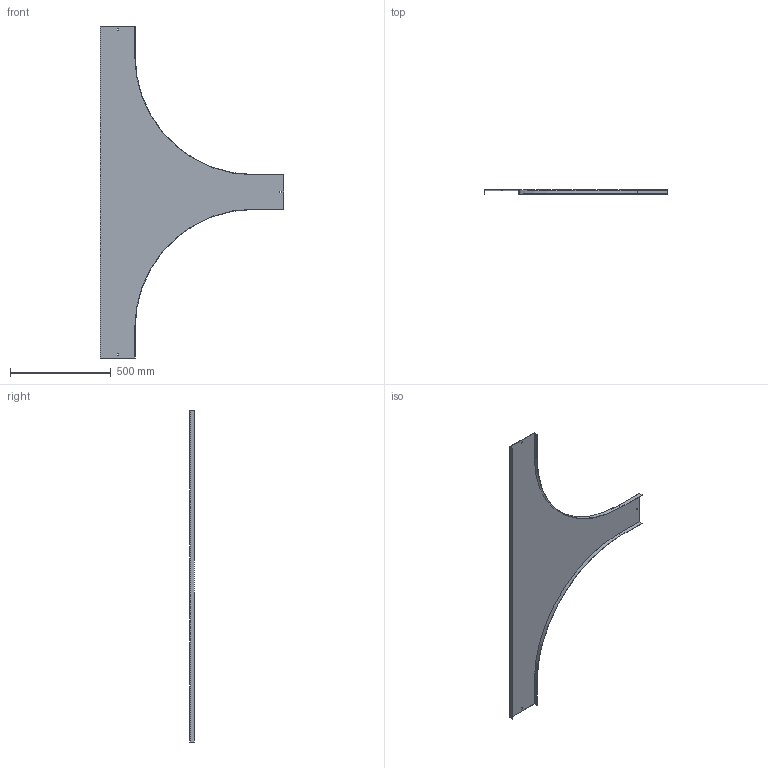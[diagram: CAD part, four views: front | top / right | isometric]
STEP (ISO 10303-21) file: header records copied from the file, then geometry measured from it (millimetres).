
FILE_DESCRIPTION (( 'STEP AP214' ), '1' );
FILE_NAME ('15N6P150.step', '2025-02-21T13:56:07', ( '' ), ( '' ), 'SwSTEP 2.0', 'SolidWorks 2023', '' );
FILE_SCHEMA (( 'AUTOMOTIVE_DESIGN' ));
Length unit declared in the file: millimetre
Products named in the file (1): 15N6P150
Bounding box: 911.5 x 20 x 1650 mm (x, y, z)
Volume: 956331 mm3; surface area: 1282340.7 mm2
Topology: 1 solids, 1 shells, 34 faces, 96 edges, 64 vertices
Faces by surface type: plane 30, cylinder 4
Entity records: 1123 total; most frequent: CARTESIAN_POINT 195, ORIENTED_EDGE 192, DIRECTION 174, EDGE_CURVE 96, LINE 88, VECTOR 88, VERTEX_POINT 64, AXIS2_PLACEMENT_3D 43
